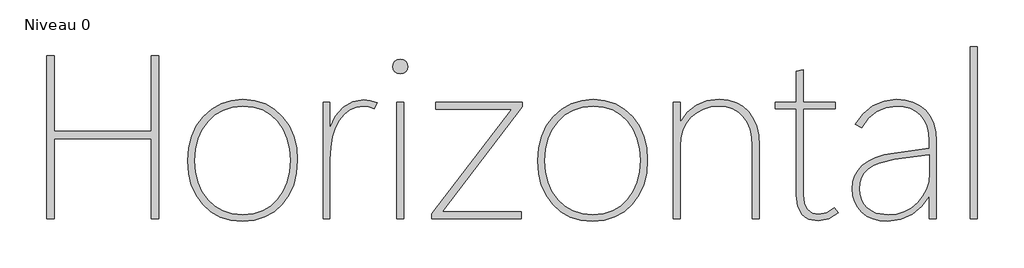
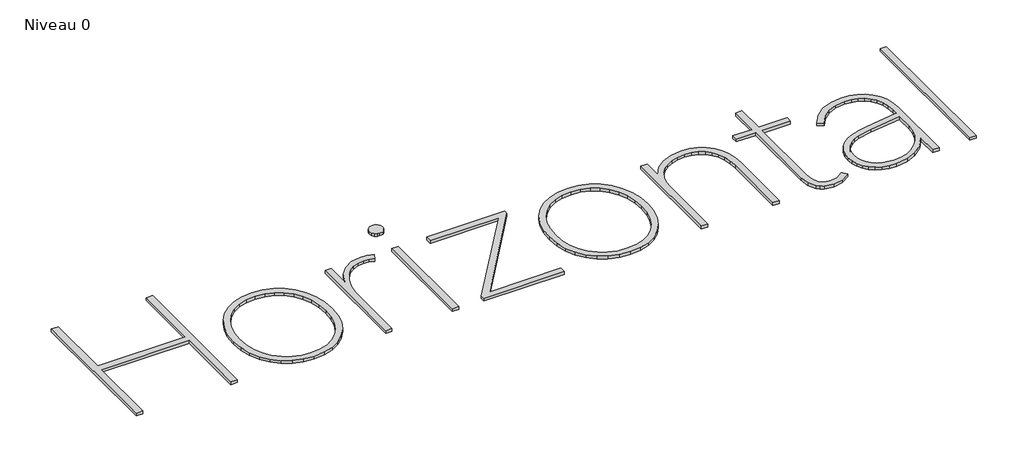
# One storey, part 11 of 11: 1 proxy.
"""IFC4 building model written with IfcOpenShell, lengths in millimetres."""

from ifc_helpers import new_model, si_unit, origin, origin_with_axes, place, context, project, spatial, polyline, outline, extrude, element, save

model = new_model("IFC4")

# Units and contexts
model_context = context("Model", 3, world=origin())
ifc_project = project(units=[si_unit("LENGTHUNIT", "METRE", prefix="MILLI")], contexts=[model_context])

# Site, building, storey
site = spatial("IfcSite", under=ifc_project)
building = spatial("IfcBuilding", under=site)
storey = spatial("IfcBuildingStorey", under=building, Name="Niveau 0", Elevation=0.0)

# Proxy
placement = place(None, origin())
element("IfcBuildingElementProxy", 1, Name="5 mm", ObjectType="5 mm", at=placement, inside=storey, context=model_context, shape_type="SweptSolid", body=[
    extrude(outline(polyline([(42917.9490036, 439.16808), (42895.1093285, 439.16808), (42895.1093285, 687.399286), (42592.633894, 687.399286), (42592.633894, 439.16808), (42569.3434358, 439.16808), (42569.3434358, 944.1953702), (42592.633894, 944.1953702), (42592.633894, 709.637917), (42895.1093285, 709.637917), (42895.1093285, 944.1953702), (42917.9490036, 944.1953702), (42917.9490036, 439.16808)])), origin_with_axes(), (0.0, 0.0, 1.0), 10.0),
    extrude(outline(polyline([(43177.9005692, 430.7534628), (43141.5045326, 434.0122487), (43108.7992824, 443.7886063), (43079.7848184, 460.0825358), (43054.4611408, 482.8940369), (43033.9176419, 510.9364999), (43019.2437141, 542.9233147), (43010.4393574, 578.8544812), (43007.5045719, 618.7299996), (43010.5379662, 658.8496921), (43019.6381493, 695.062598), (43034.805121, 727.3687175), (43056.0388815, 755.7680504), (43081.9401249, 778.9082475), (43111.1095456, 795.4369598), (43143.5471434, 805.3541872), (43179.2529184, 808.6599296), (43215.484607, 805.3447958), (43247.9973353, 795.3993945), (43276.7911034, 778.8237257), (43301.8659112, 755.6177893), (43322.1793229, 727.2184564), (43336.6889028, 695.062598), (43345.3946506, 659.1502141), (43348.2965666, 619.4813047), (43345.3570854, 579.7043951), (43336.5386417, 543.7685329), (43321.8412357, 511.6737181), (43301.2648671, 483.4199505), (43275.9177112, 460.3783621), (43246.9079429, 443.9200847), (43214.2355623, 434.0451183), (43177.9005692, 430.7534628)]), holes=[polyline([(43178.6518743, 451.4894836), (43210.4132976, 454.4148779), (43238.8314131, 463.1910606), (43263.9062209, 477.8180318), (43285.637721, 498.2957916), (43303.1900865, 523.4410342), (43315.7274904, 552.0704543), (43323.2499327, 584.1840518), (43325.7574135, 619.7818267), (43323.259324, 655.3702103), (43315.7650556, 687.4556339), (43303.2746083, 716.0380974), (43285.787982, 741.1176009), (43264.1410037, 761.5296214), (43239.1695004, 776.109636), (43210.8734719, 784.8576448), (43179.2529184, 787.7736477), (43147.5478431, 784.8059926), (43118.9982492, 775.9030271), (43093.6041367, 761.0647513), (43071.3655056, 740.2911652), (43053.2872266, 714.8688788), (43040.3741701, 686.0845021), (43032.6263362, 653.938035), (43030.043725, 618.4294775), (43032.5840753, 582.9960506), (43040.2051265, 551.074975), (43052.9068784, 522.6662508), (43070.689331, 497.769878), (43092.6790923, 477.5222055), (43118.0027699, 463.0595822), (43146.6603639, 454.3820083), (43178.6518743, 451.4894836)])]), origin_with_axes(), (0.0, 0.0, 1.0), 10.0),
    extrude(outline(polyline([(43587.3618504, 779.6595526), (43569.931572, 785.5948629), (43552.5012936, 787.1726037), (43530.9623154, 784.5195575), (43511.4236871, 776.5604191), (43493.8854086, 763.2951884), (43478.3474799, 744.7238653), (43465.6269454, 721.1563634), (43456.5408493, 692.9025959), (43451.0891917, 659.9625628), (43449.2719724, 622.3362641), (43449.2719724, 439.16808), (43427.7846465, 439.16808), (43427.7846465, 799.7945294), (43449.2719724, 799.7945294), (43449.2719724, 720.1561885), (43466.3453809, 757.045269), (43489.7673175, 784.4679053), (43519.2748254, 801.4849659), (43553.5531207, 807.1573194), (43574.2891416, 805.4293177), (43595.7764675, 798.7427023), (43587.3618504, 779.6595526)])), origin_with_axes(), (0.0, 0.0, 1.0), 10.0),
    extrude(outline(polyline([(43667.4509743, 887.8474875), (43658.3414, 889.4252282), (43650.8471316, 894.1584503), (43645.83217, 901.4461098), (43644.1605162, 910.6871626), (43645.83217, 919.946998), (43650.8471316, 927.2910054), (43658.3414, 932.0805754), (43667.4509743, 933.6770988), (43677.1052449, 932.0805754), (43684.4304697, 927.2910054), (43689.0509961, 919.946998), (43690.5911715, 910.6871626), (43689.0509961, 901.4461098), (43684.4304697, 894.1584503), (43677.1052449, 889.4252282), (43667.4509743, 887.8474875)])), origin_with_axes(), (0.0, 0.0, 1.0), 10.0),
    extrude(outline(polyline([(43678.7205509, 439.16808), (43656.7824419, 439.16808), (43656.7824419, 799.7945294), (43678.7205509, 799.7945294), (43678.7205509, 439.16808)])), origin_with_axes(), (0.0, 0.0, 1.0), 10.0),
    extrude(outline(polyline([(44045.8082242, 786.4212986), (43797.5770182, 459.9041008), (44042.9532648, 459.9041008), (44042.9532648, 439.16808), (43765.1206377, 439.16808), (43765.1206377, 453.2926159), (44013.5021048, 779.0585086), (43777.1415194, 779.0585086), (43777.1415194, 799.7945294), (44045.8082242, 799.7945294), (44045.8082242, 786.4212986)])), origin_with_axes(), (0.0, 0.0, 1.0), 10.0),
    extrude(outline(polyline([(44264.5882702, 430.7534628), (44228.1922336, 434.0122487), (44195.4869834, 443.7886063), (44166.4725194, 460.0825358), (44141.1488418, 482.8940369), (44120.6053429, 510.9364999), (44105.9314151, 542.9233147), (44097.1270584, 578.8544812), (44094.1922729, 618.7299996), (44097.2256672, 658.8496921), (44106.3258503, 695.062598), (44121.492822, 727.3687175), (44142.7265825, 755.7680504), (44168.6278259, 778.9082475), (44197.7972466, 795.4369598), (44230.2348444, 805.3541872), (44265.9406194, 808.6599296), (44302.172308, 805.3447958), (44334.6850363, 795.3993945), (44363.4788044, 778.8237257), (44388.5536122, 755.6177893), (44408.8670239, 727.2184564), (44423.3766037, 695.062598), (44432.0823516, 659.1502141), (44434.9842676, 619.4813047), (44432.0447864, 579.7043951), (44423.2263427, 543.7685329), (44408.5289366, 511.6737181), (44387.9525681, 483.4199505), (44362.6054122, 460.3783621), (44333.5956439, 443.9200847), (44300.9232633, 434.0451183), (44264.5882702, 430.7534628)]), holes=[polyline([(44265.3395753, 451.4894836), (44297.1009986, 454.4148779), (44325.5191141, 463.1910606), (44350.5939219, 477.8180318), (44372.325422, 498.2957916), (44389.8777875, 523.4410342), (44402.4151914, 552.0704543), (44409.9376337, 584.1840518), (44412.4451145, 619.7818267), (44409.947025, 655.3702103), (44402.4527566, 687.4556339), (44389.9623093, 716.0380974), (44372.475683, 741.1176009), (44350.8287047, 761.5296214), (44325.8572014, 776.109636), (44297.5611729, 784.8576448), (44265.9406194, 787.7736477), (44234.2355441, 784.8059926), (44205.6859501, 775.9030271), (44180.2918377, 761.0647513), (44158.0532066, 740.2911652), (44139.9749276, 714.8688788), (44127.0618711, 686.0845021), (44119.3140372, 653.938035), (44116.7314259, 618.4294775), (44119.2717763, 582.9960506), (44126.8928275, 551.074975), (44139.5945794, 522.6662508), (44157.377032, 497.769878), (44179.3667933, 477.5222055), (44204.6904709, 463.0595822), (44233.3480649, 454.3820083), (44265.3395753, 451.4894836)])]), origin_with_axes(), (0.0, 0.0, 1.0), 10.0),
    extrude(outline(polyline([(44781.7867031, 439.16808), (44760.2993772, 439.16808), (44760.2993772, 663.8083058), (44758.5807668, 691.6112902), (44753.4249355, 716.1179235), (44744.8318834, 737.3282057), (44732.8016104, 755.2421368), (44717.7097692, 769.4746728), (44699.9320122, 779.64077), (44679.4683394, 785.7404283), (44656.3187509, 787.7736477), (44631.0185516, 785.5948629), (44608.1600938, 779.0585086), (44587.7433777, 768.1645846), (44569.7684031, 752.913091), (44555.1085622, 734.2713331), (44544.6372474, 713.2066163), (44538.3544584, 689.7189405), (44536.2601955, 663.8083058), (44536.2601955, 439.16808), (44514.4723475, 439.16808), (44514.4723475, 799.7945294), (44536.2601955, 799.7945294), (44536.2601955, 738.1875109), (44558.4424786, 768.3148456), (44585.7712018, 790.4783461), (44618.9225394, 804.1145337), (44657.5208391, 808.6599296), (44685.3942584, 806.2698403), (44709.9619353, 799.0995722), (44731.2238697, 787.1491254), (44749.1800617, 770.4184999), (44763.4454673, 749.546305), (44773.6350428, 725.17115), (44779.748788, 697.2930351), (44781.7867031, 665.91196), (44781.7867031, 439.16808)])), origin_with_axes(), (0.0, 0.0, 1.0), 10.0),
    extrude(outline(polyline([(45027.7639939, 456.7486194), (44998.0874423, 437.8908613), (44965.4056703, 432.105812), (44935.7854666, 437.045643), (44924.1167592, 443.2204319), (44914.5423148, 451.8651362), (44901.7513455, 476.5267262), (44897.487689, 510.9928478), (44897.487689, 779.6595526), (44831.3728399, 779.6595526), (44831.3728399, 799.7945294), (44897.487689, 799.7945294), (44897.487689, 896.7128877), (44919.275537, 900.4694132), (44919.275537, 799.7945294), (45017.5462445, 799.7945294), (45017.5462445, 779.6595526), (44919.275537, 779.6595526), (44919.275537, 512.495458), (44922.2807574, 485.9931705), (44931.2964186, 467.1917603), (44946.2098249, 455.9785316), (44966.9082805, 452.2407887), (44991.7013489, 456.9740109), (45015.1420681, 472.6762875), (45027.7639939, 456.7486194)])), origin_with_axes(), (0.0, 0.0, 1.0), 10.0),
    extrude(outline(polyline([(45332.0425606, 439.16808), (45310.1044516, 439.16808), (45310.1044516, 508.5886715), (45287.2835591, 477.447075), (45257.1374418, 452.5413108), (45220.9057532, 436.2004248), (45180.8799738, 430.7534628), (45156.1432533, 432.5143341), (45134.374188, 437.7969481), (45115.5727778, 446.6013048), (45099.7390227, 458.9274042), (45087.1828362, 474.0051584), (45078.2141315, 491.0644799), (45072.8329087, 510.1053686), (45071.0391678, 531.1278246), (45072.9972567, 552.6198462), (45078.8715235, 572.0176048), (45088.6619681, 589.3211004), (45102.3685906, 604.5303331), (45120.263739, 617.5138244), (45142.6197615, 628.140096), (45169.436658, 636.4091478), (45200.7144286, 642.3209798), (45310.5552346, 657.7978649), (45310.5552346, 678.9846688), (45308.8272329, 704.1158245), (45303.6432277, 726.0163683), (45295.003219, 744.6863001), (45282.9072068, 760.12562), (45267.8623221, 772.2216321), (45250.3756959, 780.8616408), (45230.447328, 786.045646), (45208.0772186, 787.7736477), (45174.5502284, 783.5475565), (45145.1929815, 770.8692829), (45120.2308694, 749.9266532), (45099.8892837, 720.9074936), (45079.904568, 732.1770701), (45104.4722449, 765.0278858), (45134.5995795, 789.0508664), (45169.422571, 803.7576638), (45208.0772186, 808.6599296), (45234.9645499, 806.5562753), (45258.9781393, 800.2453125), (45280.1179866, 789.727041), (45298.384092, 775.001461), (45313.109672, 756.3597031), (45323.6279434, 734.0928981), (45329.9389063, 708.201046), (45332.0425606, 678.6841468), (45332.0425606, 439.16808)]), holes=[polyline([(45310.1044516, 579.6621342), (45310.1044516, 637.0618441), (45203.4191269, 622.6367861), (45154.2837732, 611.2920791), (45135.3508846, 602.8586793), (45120.1745215, 592.584582), (45108.5386837, 580.3852654), (45100.227371, 566.1762076), (45095.2405834, 549.9574087), (45093.5783209, 531.7288686), (45095.0856267, 514.0591118), (45099.6075443, 498.3145742), (45107.1440736, 484.4952559), (45117.6952147, 472.601157), (45130.8007931, 463.0361039), (45146.0006344, 456.2039232), (45182.6831061, 450.7381785), (45207.7250443, 453.0625287), (45231.0108068, 460.0355792), (45252.5403937, 471.65733), (45272.3138049, 487.9277811), (45288.8472128, 507.6072792), (45300.6567899, 529.4561707), (45307.7425361, 553.4744557), (45310.1044516, 579.6621342)])]), origin_with_axes(), (0.0, 0.0, 1.0), 10.0),
    extrude(outline(polyline([(45437.6760581, 439.16808), (45437.6760581, 973.0454861), (45459.463906, 973.0454861), (45459.463906, 439.16808), (45437.6760581, 439.16808)])), origin_with_axes(), (0.0, 0.0, 1.0), 10.0),
])

save(model, "model.ifc")
